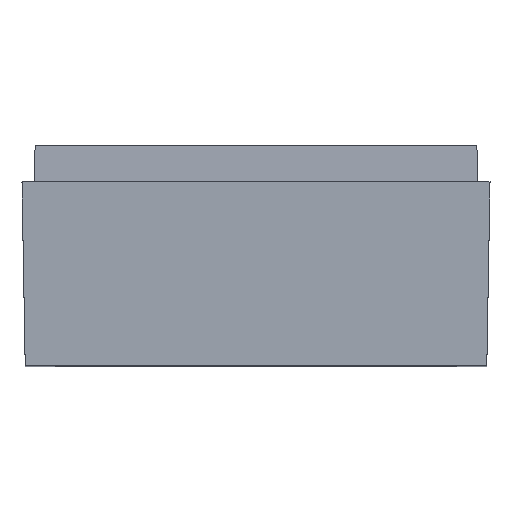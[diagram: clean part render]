
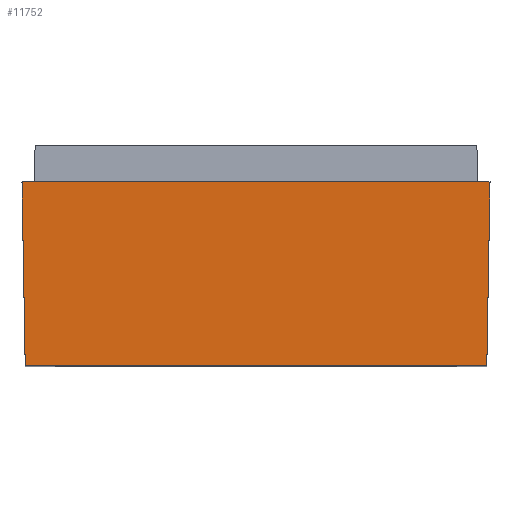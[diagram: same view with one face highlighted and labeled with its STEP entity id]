
A CAD part, top view. The second image highlights one B-rep face of the part: STEP entity #11752.
In plain terms, the highlighted planar face has unit normal (0, -0.018, 1).
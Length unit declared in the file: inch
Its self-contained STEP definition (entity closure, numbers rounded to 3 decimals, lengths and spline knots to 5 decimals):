
#57 = DIRECTION ( 'NONE',  ( 0.017, 1., 0.017 ) ) ;
#379 = CARTESIAN_POINT ( 'NONE',  ( -1.75, 0., 2.25 ) ) ;
#1973 = DIRECTION ( 'NONE',  ( 1., 0., 0. ) ) ;
#1980 = CARTESIAN_POINT ( 'NONE',  ( 1.75, 0., 2.25 ) ) ;
#2510 = VECTOR ( 'NONE', #57, 39.37008 ) ;
#2696 = DIRECTION ( 'NONE',  ( 0., -1., -0.017 ) ) ;
#2808 = ORIENTED_EDGE ( 'NONE', *, *, #9937, .T. ) ;
#2915 = CARTESIAN_POINT ( 'NONE',  ( 1.74893, -0.06106, 2.24893 ) ) ;
#3341 = VERTEX_POINT ( 'NONE', #14684 ) ;
#3500 = ORIENTED_EDGE ( 'NONE', *, *, #14585, .F. ) ;
#5613 = EDGE_LOOP ( 'NONE', ( #9085, #3500, #2808, #15965 ) ) ;
#5625 = VERTEX_POINT ( 'NONE', #9740 ) ;
#5971 = LINE ( 'NONE', #12312, #15455 ) ;
#6236 = VERTEX_POINT ( 'NONE', #15619 ) ;
#7890 = AXIS2_PLACEMENT_3D ( 'NONE', #10427, #10476, #2696 ) ;
#8559 = LINE ( 'NONE', #9859, #15017 ) ;
#8565 = LINE ( 'NONE', #379, #15020 ) ;
#9085 = ORIENTED_EDGE ( 'NONE', *, *, #10983, .F. ) ;
#9234 = PLANE ( 'NONE',  #7890 ) ;
#9671 = DIRECTION ( 'NONE',  ( 1., 0., 0. ) ) ;
#9740 = CARTESIAN_POINT ( 'NONE',  ( -1.75, 0., 2.25 ) ) ;
#9859 = CARTESIAN_POINT ( 'NONE',  ( 0., -1.375, 2.226 ) ) ;
#9937 = EDGE_CURVE ( 'NONE', #3341, #6236, #8559, .T. ) ;
#10427 = CARTESIAN_POINT ( 'NONE',  ( -1.75, 0., 2.25 ) ) ;
#10476 = DIRECTION ( 'NONE',  ( 0., -0.017, 1. ) ) ;
#10706 = VERTEX_POINT ( 'NONE', #1980 ) ;
#10983 = EDGE_CURVE ( 'NONE', #5625, #10706, #8565, .T. ) ;
#11752 = ADVANCED_FACE ( 'NONE', ( #15499 ), #9234, .T. ) ;
#11810 = EDGE_CURVE ( 'NONE', #6236, #10706, #12355, .T. ) ;
#12312 = CARTESIAN_POINT ( 'NONE',  ( -1.74863, -0.0785, 2.24863 ) ) ;
#12355 = LINE ( 'NONE', #2915, #2510 ) ;
#13491 = DIRECTION ( 'NONE',  ( -0.017, 1., 0.017 ) ) ;
#14585 = EDGE_CURVE ( 'NONE', #3341, #5625, #5971, .T. ) ;
#14684 = CARTESIAN_POINT ( 'NONE',  ( -1.726, -1.375, 2.226 ) ) ;
#15017 = VECTOR ( 'NONE', #1973, 39.37008 ) ;
#15020 = VECTOR ( 'NONE', #9671, 39.37008 ) ;
#15455 = VECTOR ( 'NONE', #13491, 39.37008 ) ;
#15499 = FACE_OUTER_BOUND ( 'NONE', #5613, .T. ) ;
#15619 = CARTESIAN_POINT ( 'NONE',  ( 1.726, -1.375, 2.226 ) ) ;
#15965 = ORIENTED_EDGE ( 'NONE', *, *, #11810, .T. ) ;
